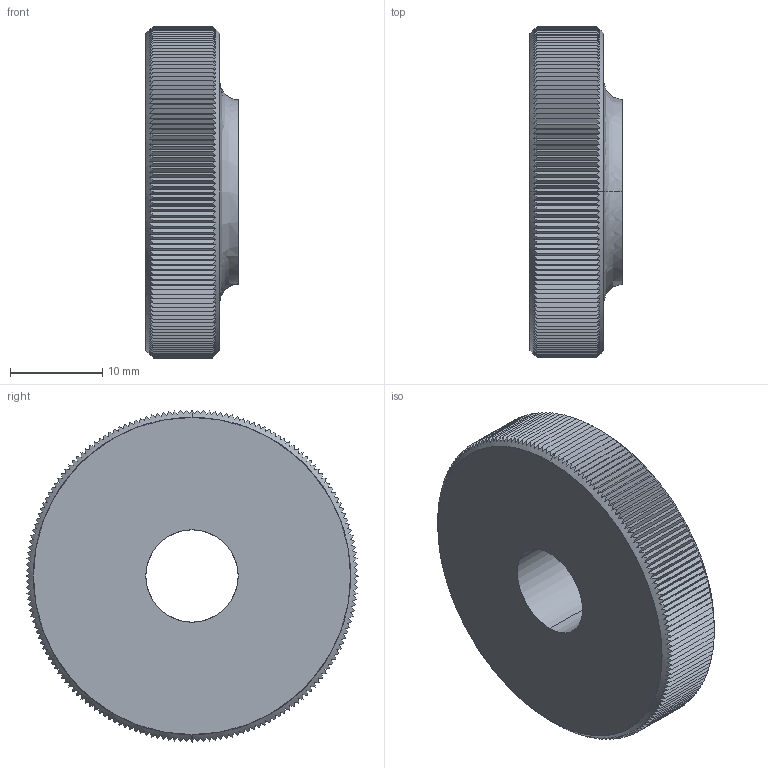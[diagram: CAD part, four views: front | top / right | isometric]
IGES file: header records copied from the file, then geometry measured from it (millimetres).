
Start section: SolidWorks IGES file using analytic representation for surfaces
Global section: file name: C:\Documents and Settings\IANO\Desktop\Temp File\Process pending\EXISTING\37120_v2\37120_v2_20170629_IGES\37120.W0010.igs; native system: SolidWorks 2009; preprocessor: SolidWorks 2009; author: IANO; date: 170627.122256; units: millimetre
Bounding box: 10 x 36 x 36 mm (x, y, z)
Surface area: 3510.3 mm2 (no closed solid volume)
Topology: 0 solids, 0 shells, 371 faces, 2444 edges, 2444 vertices
Faces by surface type: bspline 365, revolution 6
